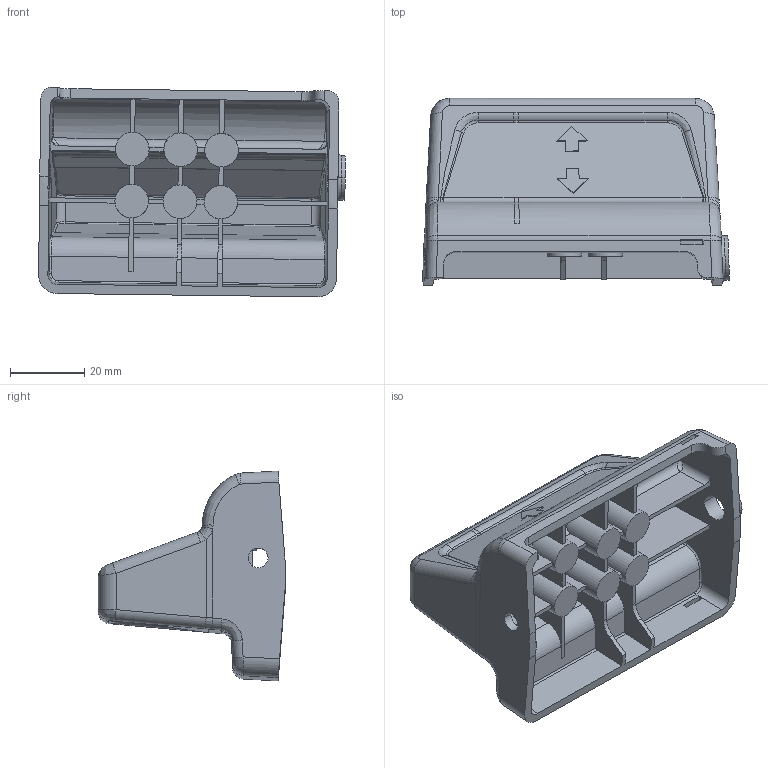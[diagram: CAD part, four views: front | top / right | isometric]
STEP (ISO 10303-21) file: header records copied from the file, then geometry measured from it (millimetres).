
FILE_DESCRIPTION(('CATIA V5 STEP Exchange'),'2;1');
FILE_NAME('C:\Users\Administrator\Desktop\2D图纸\STP\O-009 手柄.stp','2020-04-01T10:01:40+00:00',('none'),('none'),'CATIA Version 5 Release 21 GA (IN-10)','CATIA V5 STEP AP203','none');
FILE_SCHEMA(('CONFIG_CONTROL_DESIGN'));
Length unit declared in the file: millimetre
Products named in the file (1): SQX3000-6806216
Bounding box: 82.52 x 50.37 x 56.44 mm (x, y, z)
Volume: 42386.5 mm3; surface area: 34073.2 mm2
Topology: 1 solids, 1 shells, 375 faces, 1009 edges, 636 vertices
Faces by surface type: plane 150, cylinder 140, bspline 71, extrusion 10, torus 4
Entity records: 17347 total; most frequent: CARTESIAN_POINT 9298, ORIENTED_EDGE 2014, DIRECTION 1050, EDGE_CURVE 1007, VERTEX_POINT 636, VECTOR 531, LINE 521, EDGE_LOOP 385
